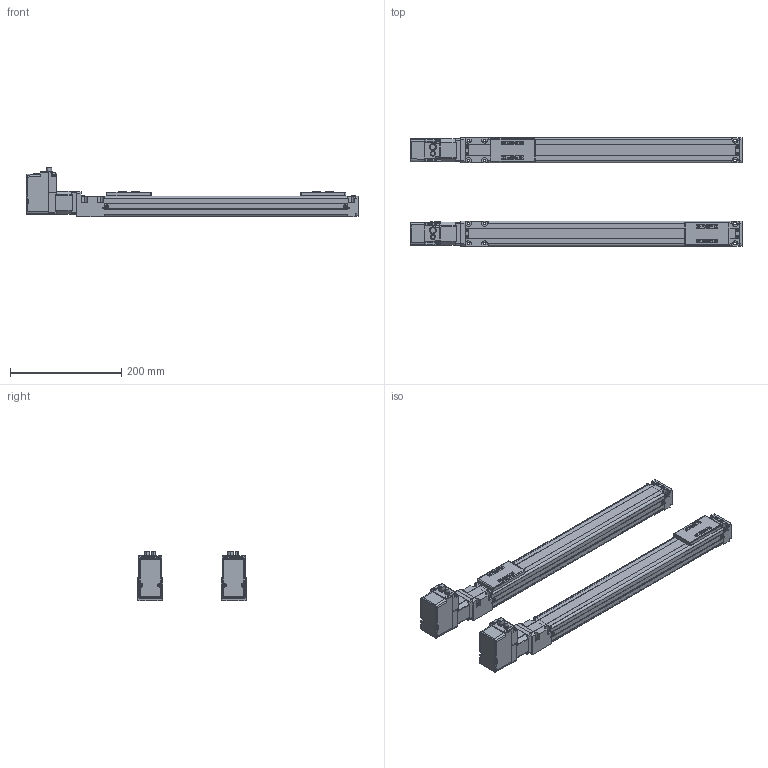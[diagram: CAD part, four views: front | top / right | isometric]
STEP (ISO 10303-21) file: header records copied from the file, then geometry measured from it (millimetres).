
FILE_DESCRIPTION(('STEP AP214'),'1');
FILE_NAME('D:\図面\3D\SCLT4\tmp0.step',' ',(' '),(' '),'XStep 1.0',' ',' ');
FILE_SCHEMA(('automotive_design'));
Length unit declared in the file: millimetre
Products named in the file (30): VLAST45-06-0350-0-0N (0) (350)|_VLA-ST-45-12-0350 Body;_VLA-ST-45-12-0350 Body; VLAST45-06-0350-0-0N (0) (350)|_VLA-ST-45-12-0050 Slider;_VLA-ST-45-12-0050 Slider; 3; 1; 12; 2; 13; 9; 4; 11; 10; 14
Bounding box: 597 x 195 x 88.5 mm (x, y, z)
Volume: 988124.6 mm3; surface area: 473425.5 mm2
Topology: 30 solids, 30 shells, 2132 faces, 5648 edges, 3580 vertices
Faces by surface type: plane 1124, cylinder 716, cone 204, torus 68, sphere 12, bspline 8
Entity records: 84635 total; most frequent: CARTESIAN_POINT 13122, DIRECTION 11352, ORIENTED_EDGE 11208, EDGE_CURVE 5604, AXIS2_PLACEMENT_3D 3818, LINE 3716, VECTOR 3716, VERTEX_POINT 3580
